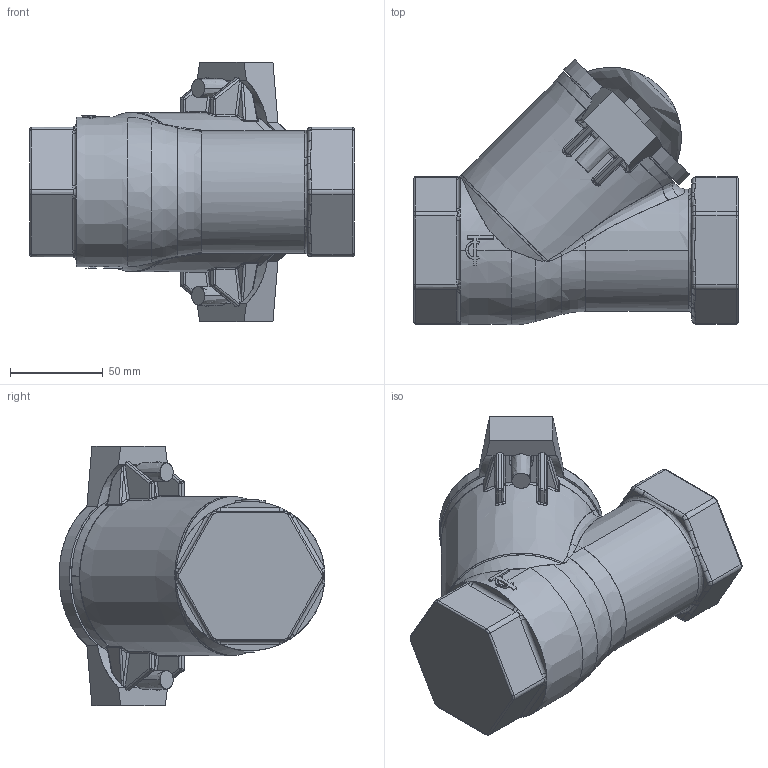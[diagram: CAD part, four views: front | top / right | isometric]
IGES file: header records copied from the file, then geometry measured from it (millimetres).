
Start section: SolidWorks IGES file using analytic representation for surfaces
Global section: file name: D:\part\3D Projects\CBL X141\DN 50\DN50.IGS; native system: SolidWorks 2009; preprocessor: SolidWorks 2009; author: zhixin.zheng; date: 100514.160733; units: millimetre
Bounding box: 175 x 143.38 x 140 mm (x, y, z)
Surface area: 81388.5 mm2 (no closed solid volume)
Topology: 0 solids, 0 shells, 462 faces, 3590 edges, 3579 vertices
Faces by surface type: bspline 305, revolution 157
